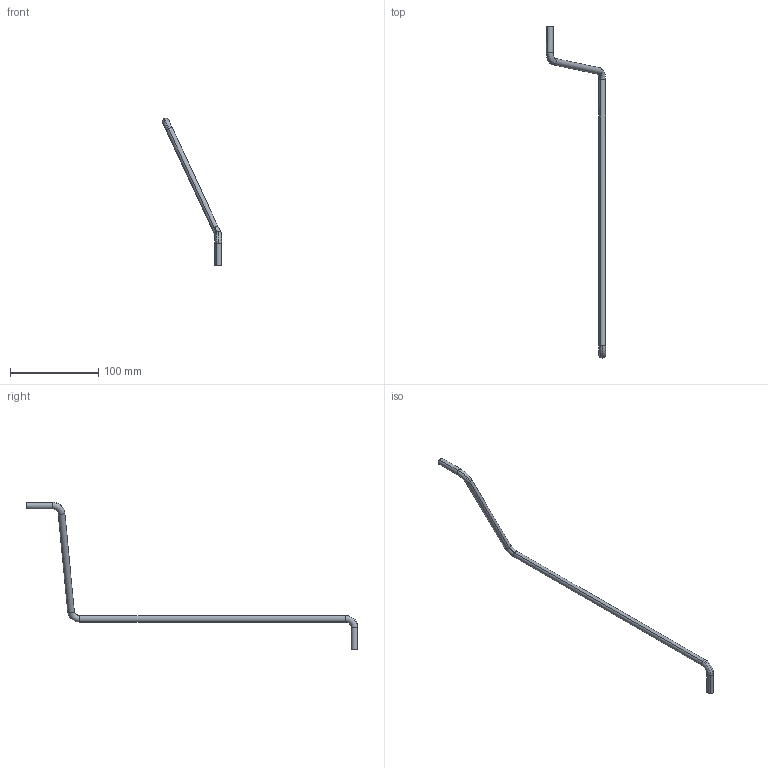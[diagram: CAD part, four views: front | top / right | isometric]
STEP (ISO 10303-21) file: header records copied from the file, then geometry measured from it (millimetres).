
FILE_DESCRIPTION(('CATIA V5 STEP Exchange'),'2;1');
FILE_NAME('F:\李红涛\重卡项目\一汽解放项目\J6L项目\06-3D+2D\01-NC冻结数据\01-3D数据+2D图纸\降本图纸\图纸\扭力杆\SHT0014975_A_扭力杆20221027\SHT0014975.stp','2022-11-14T07:32:40+00:00',('none'),('none'),'CATIA Version 5 Release 20 GA (IN-10)','CATIA V5 STEP AP214','none');
FILE_SCHEMA(('AUTOMOTIVE_DESIGN { 1 0 10303 214 1 1 1 1 }'));
Length unit declared in the file: millimetre
Products named in the file (1): 扭力杆
Bounding box: 66.91 x 375.31 x 166.87 mm (x, y, z)
Volume: 23180.5 mm3; surface area: 12451.3 mm2
Topology: 1 solids, 1 shells, 22 faces, 48 edges, 28 vertices
Faces by surface type: torus 12, cylinder 8, plane 2
Entity records: 652 total; most frequent: CARTESIAN_POINT 200, ORIENTED_EDGE 96, DIRECTION 68, EDGE_CURVE 48, AXIS2_PLACEMENT_3D 44, VERTEX_POINT 28, CIRCLE 26, ADVANCED_FACE 22
